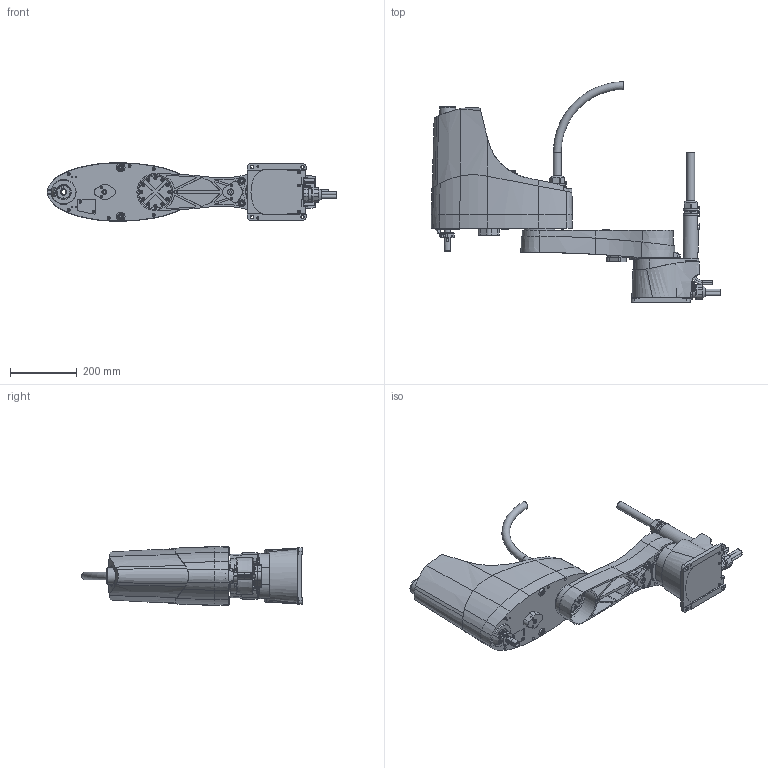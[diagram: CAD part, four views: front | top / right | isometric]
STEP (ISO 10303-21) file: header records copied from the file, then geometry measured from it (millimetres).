
FILE_DESCRIPTION(/* description */ ('STEP AP214'),/* implementation_level */ '2;1');
FILE_NAME(/* name */ 'YK610XE-10-200-C-3L',/* time_stamp */ '2022-07-29T08:42:34+02:00',/* author */ ('License CC BY-ND 4.0'),/* organization */ ('CADENAS'),/* preprocessor_version */ 'ST-DEVELOPER v18.102',/* originating_system */ 'PARTsolutions',/* authorisation */ ' ');
FILE_SCHEMA (('AUTOMOTIVE_DESIGN {1 0 10303 214 3 1 1}'));
Products named in the file (5): YK610XE-10-200-C-3L; YK610XE-10-200-3L-4; YK610XE-10-200-C-3L-3; YK610XE-10-200-3L-2; YK610XE-10-200-3L-1
Assembly tree (4 placements, depth 2):
  YK610XE-10-200-C-3L
    YK610XE-10-200-3L-4
    YK610XE-10-200-C-3L-3
    YK610XE-10-200-3L-2
    YK610XE-10-200-3L-1
Bounding box: 866.88 x 660 x 175.93 mm (x, y, z)
Volume: 18357182.3 mm3; surface area: 1033969.6 mm2
Topology: 4 solids, 4 shells, 2382 faces, 5863 edges, 3851 vertices
Faces by surface type: plane 1693, cylinder 496, cone 157, torus 21, bspline 9, sphere 6
Full cylindrical faces by diameter (mm): 3.242 x6, 3.3 x8, 4 x10, 5 x2, 5.5 x29, 6 x7, 6.8 x2, 6.94 x1, 7 x34, 7.6 x1, 8 x35, 8.424 x1, 8.5 x13, 9 x7, 9.142 x14, 9.5 x2, 9.734 x2, 9.8 x1, 10 x13, 10.8 x1, 10.93 x1, 11 x1, 11.493 x14, 11.8 x3, 12 x1, 12.5 x2, 13 x1, 13.5 x3, 14 x3, 14.5 x2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
Entity records: 85129 total; most frequent: CARTESIAN_POINT 13493, DIRECTION 11360, ORIENTED_EDGE 10870, EDGE_CURVE 5435, AXIS2_PLACEMENT_3D 3817, VERTEX_POINT 3788, LINE 3726, VECTOR 3726
